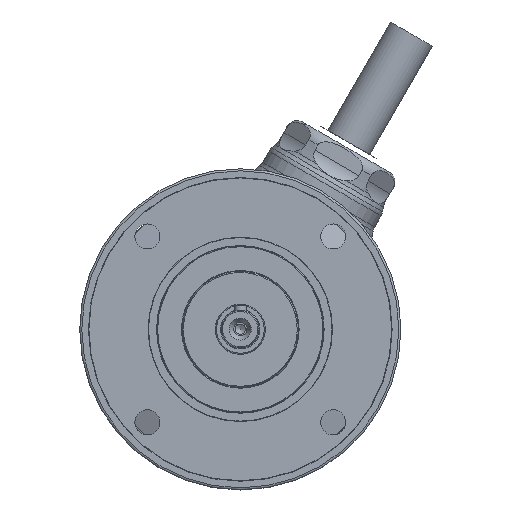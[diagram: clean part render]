
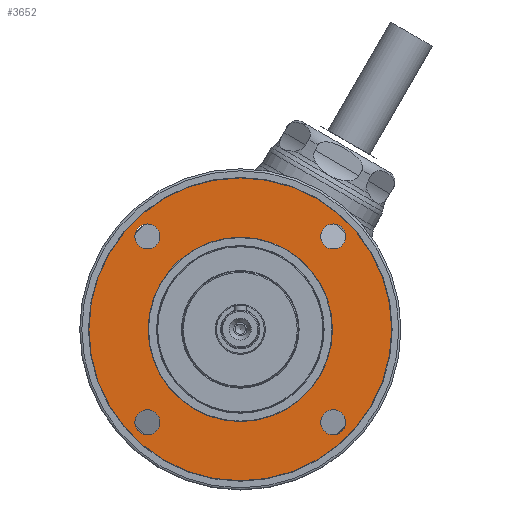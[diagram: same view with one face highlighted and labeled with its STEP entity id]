
A CAD part, top view. The second image highlights one B-rep face of the part: STEP entity #3652.
In plain terms, the highlighted planar face has unit normal (0, 0, 1) as drawn and (0, 0, -1) by its records, which use the part's own axes.
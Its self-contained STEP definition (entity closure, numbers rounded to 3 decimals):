
#611=FACE_BOUND('',#934,.T.);
#612=FACE_BOUND('',#935,.T.);
#613=FACE_BOUND('',#936,.T.);
#614=FACE_BOUND('',#937,.T.);
#615=FACE_BOUND('',#938,.T.);
#636=PLANE('',#3939);
#721=FACE_OUTER_BOUND('',#933,.T.);
#933=EDGE_LOOP('',(#2371));
#934=EDGE_LOOP('',(#2372));
#935=EDGE_LOOP('',(#2373));
#936=EDGE_LOOP('',(#2374));
#937=EDGE_LOOP('',(#2375));
#938=EDGE_LOOP('',(#2376));
#1185=CIRCLE('',#3940,36.319);
#1186=CIRCLE('',#3941,3.);
#1187=CIRCLE('',#3942,3.);
#1188=CIRCLE('',#3943,3.);
#1189=CIRCLE('',#3944,3.);
#1190=CIRCLE('',#3945,22.1);
#1430=VERTEX_POINT('',#5552);
#1431=VERTEX_POINT('',#5554);
#1432=VERTEX_POINT('',#5556);
#1433=VERTEX_POINT('',#5558);
#1434=VERTEX_POINT('',#5560);
#1435=VERTEX_POINT('',#5562);
#1799=EDGE_CURVE('',#1430,#1430,#1185,.T.);
#1800=EDGE_CURVE('',#1431,#1431,#1186,.T.);
#1801=EDGE_CURVE('',#1432,#1432,#1187,.T.);
#1802=EDGE_CURVE('',#1433,#1433,#1188,.T.);
#1803=EDGE_CURVE('',#1434,#1434,#1189,.T.);
#1804=EDGE_CURVE('',#1435,#1435,#1190,.T.);
#2371=ORIENTED_EDGE('',*,*,#1799,.F.);
#2372=ORIENTED_EDGE('',*,*,#1800,.T.);
#2373=ORIENTED_EDGE('',*,*,#1801,.T.);
#2374=ORIENTED_EDGE('',*,*,#1802,.T.);
#2375=ORIENTED_EDGE('',*,*,#1803,.T.);
#2376=ORIENTED_EDGE('',*,*,#1804,.F.);
#3652=ADVANCED_FACE('',(#721,#611,#612,#613,#614,#615),#636,.T.);
#3939=AXIS2_PLACEMENT_3D('',#5551,#4460,#4461);
#3940=AXIS2_PLACEMENT_3D('',#5553,#4462,#4463);
#3941=AXIS2_PLACEMENT_3D('',#5555,#4464,#4465);
#3942=AXIS2_PLACEMENT_3D('',#5557,#4466,#4467);
#3943=AXIS2_PLACEMENT_3D('',#5559,#4468,#4469);
#3944=AXIS2_PLACEMENT_3D('',#5561,#4470,#4471);
#3945=AXIS2_PLACEMENT_3D('',#5563,#4472,#4473);
#4460=DIRECTION('center_axis',(0.,0.,-1.));
#4461=DIRECTION('ref_axis',(1.,0.,0.));
#4462=DIRECTION('center_axis',(0.,0.,1.));
#4463=DIRECTION('ref_axis',(0.,-1.,0.));
#4464=DIRECTION('center_axis',(0.,0.,1.));
#4465=DIRECTION('ref_axis',(1.,0.,0.));
#4466=DIRECTION('center_axis',(0.,0.,1.));
#4467=DIRECTION('ref_axis',(0.,1.,0.));
#4468=DIRECTION('center_axis',(0.,0.,1.));
#4469=DIRECTION('ref_axis',(-1.,0.,0.));
#4470=DIRECTION('center_axis',(0.,0.,1.));
#4471=DIRECTION('ref_axis',(0.,-1.,0.));
#4472=DIRECTION('center_axis',(0.,0.,-1.));
#4473=DIRECTION('ref_axis',(0.,-1.,0.));
#5551=CARTESIAN_POINT('Origin',(0.,-30.3,0.));
#5552=CARTESIAN_POINT('',(0.,36.319,0.));
#5553=CARTESIAN_POINT('Origin',(0.,0.,0.));
#5554=CARTESIAN_POINT('',(19.274,-22.274,0.));
#5555=CARTESIAN_POINT('Origin',(22.274,-22.274,0.));
#5556=CARTESIAN_POINT('',(22.274,19.274,0.));
#5557=CARTESIAN_POINT('Origin',(22.274,22.274,0.));
#5558=CARTESIAN_POINT('',(-19.274,22.274,0.));
#5559=CARTESIAN_POINT('Origin',(-22.274,22.274,0.));
#5560=CARTESIAN_POINT('',(-22.274,-19.274,0.));
#5561=CARTESIAN_POINT('Origin',(-22.274,-22.274,0.));
#5562=CARTESIAN_POINT('',(0.,22.1,0.));
#5563=CARTESIAN_POINT('Origin',(0.,0.,0.));
